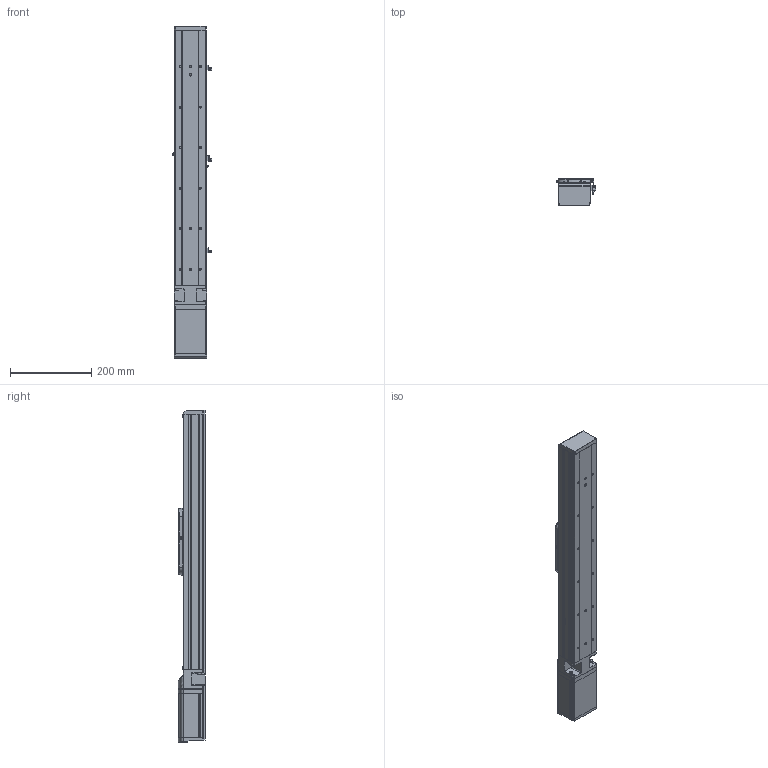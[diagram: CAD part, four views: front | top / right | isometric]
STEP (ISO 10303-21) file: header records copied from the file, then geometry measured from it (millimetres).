
FILE_DESCRIPTION (( 'STEP AP214' ), '1' );
FILE_NAME ('GERC80-450-ND-DL.STEP', '2020-04-27T09:58:07', ( '' ), ( '' ), 'SwSTEP 2.0', 'SolidWorks 2019', '' );
FILE_SCHEMA (( 'AUTOMOTIVE_DESIGN' ));
Length unit declared in the file: millimetre
Products named in the file (3): Group1^GERC80-450-ND-DL_defeature_GMT; Group2^GERC80-450-ND-DL_defeature_GMT; GERC80-450-ND-DL
Assembly tree (2 placements, depth 2):
  GERC80-450-ND-DL
    Group1^GERC80-450-ND-DL_defeature_GMT
    Group2^GERC80-450-ND-DL_defeature_GMT
Bounding box: 98.4 x 67.5 x 819 mm (x, y, z)
Volume: 2256898.7 mm3; surface area: 601599.9 mm2
Topology: 54 solids, 54 shells, 3758 faces, 9805 edges, 6132 vertices
Faces by surface type: plane 1178, cylinder 1147, cone 1081, bspline 148, torus 136, sphere 68
Entity records: 140556 total; most frequent: CARTESIAN_POINT 45307, DIRECTION 20508, ORIENTED_EDGE 19396, EDGE_CURVE 9698, AXIS2_PLACEMENT_3D 7953, VERTEX_POINT 6094, VECTOR 4602, LINE 4602
